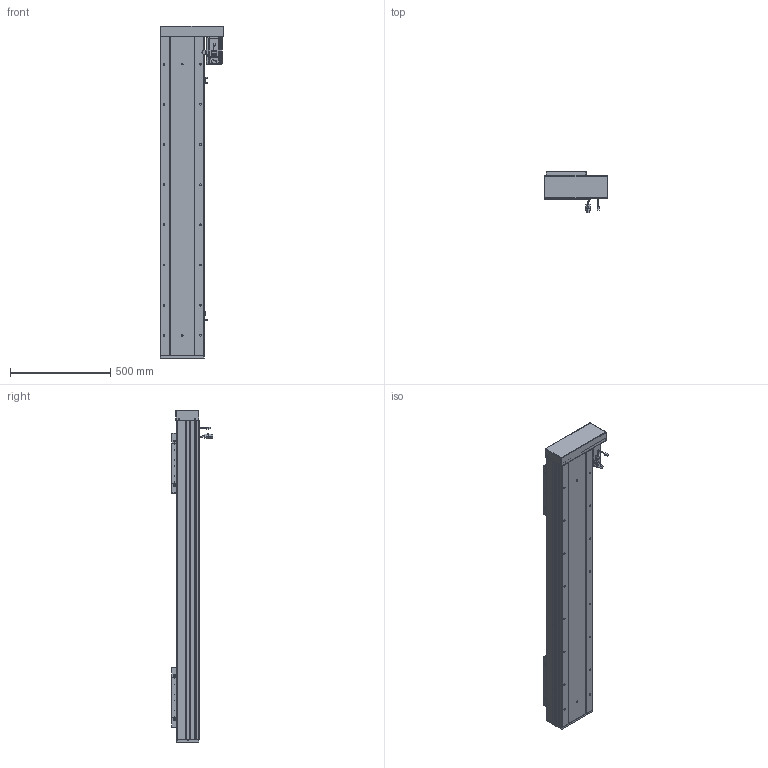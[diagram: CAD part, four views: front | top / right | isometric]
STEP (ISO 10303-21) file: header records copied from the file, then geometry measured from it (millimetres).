
FILE_DESCRIPTION (( 'STEP AP203' ), '1' );
FILE_NAME ('RY220F-L2525-800-RK-邧嶺.SLDASM_1150.step', '2022-08-06T08:19:13', ( '' ), ( '' ), 'SwSTEP 2.0', 'SolidWorks 2016', '' );
FILE_SCHEMA (( 'CONFIG_CONTROL_DESIGN' ));
Length unit declared in the file: millimetre
Products named in the file (15): 覜茼ん672; 滅袉蝶18-24; RY220F-詩湍揤踡輸; RY220F綴裔啣; RY220F蛌殏菁釱-800-邧嶺_1150; RY220F-672覜茼んえ; RY220F-L2525-800-RK-邧嶺.SLDASM_1150; RY220F-滅鳥奻裔; RY220F-蛌殏奻裔啣-800_1150; RY220F-祥凄詩湍-蛌殏-800_1150; RY220F臏賑釱25-32佪裝; RY220酘衵殏萇儂欶; RY220左右折电机安装板; 侐源滅袉蝶; 怢湛750W_ECMA-CX0807ES
Assembly tree (24 placements, depth 2):
  RY220F-L2525-800-RK-邧嶺.SLDASM_1150
    RY220F蛌殏菁釱-800-邧嶺_1150
    RY220F-蛌殏奻裔啣-800_1150  x2
    怢湛750W_ECMA-CX0807ES
    RY220F臏賑釱25-32佪裝  x2
    RY220F-滅鳥奻裔  x2
    滅袉蝶18-24  x3
    RY220F綴裔啣
    RY220F-祥凄詩湍-蛌殏-800_1150
    RY220F-詩湍揤踡輸  x2
    覜茼ん672  x3
    RY220F-672覜茼んえ  x2
    RY220左右折电机安装板
    RY220酘衵殏萇儂欶
    侐源滅袉蝶  x2
Bounding box: 317.5 x 205.27 x 1653 mm (x, y, z)
Volume: 15616723.6 mm3; surface area: 4102155.9 mm2
Topology: 25 solids, 25 shells, 2780 faces, 7560 edges, 4676 vertices
Faces by surface type: cylinder 1254, plane 1044, cone 411, bspline 45, sphere 16, torus 10
Entity records: 69000 total; most frequent: CARTESIAN_POINT 18697, ORIENTED_EDGE 10158, DIRECTION 9892, EDGE_CURVE 5079, AXIS2_PLACEMENT_3D 3522, VERTEX_POINT 3292, VECTOR 2848, LINE 2848
